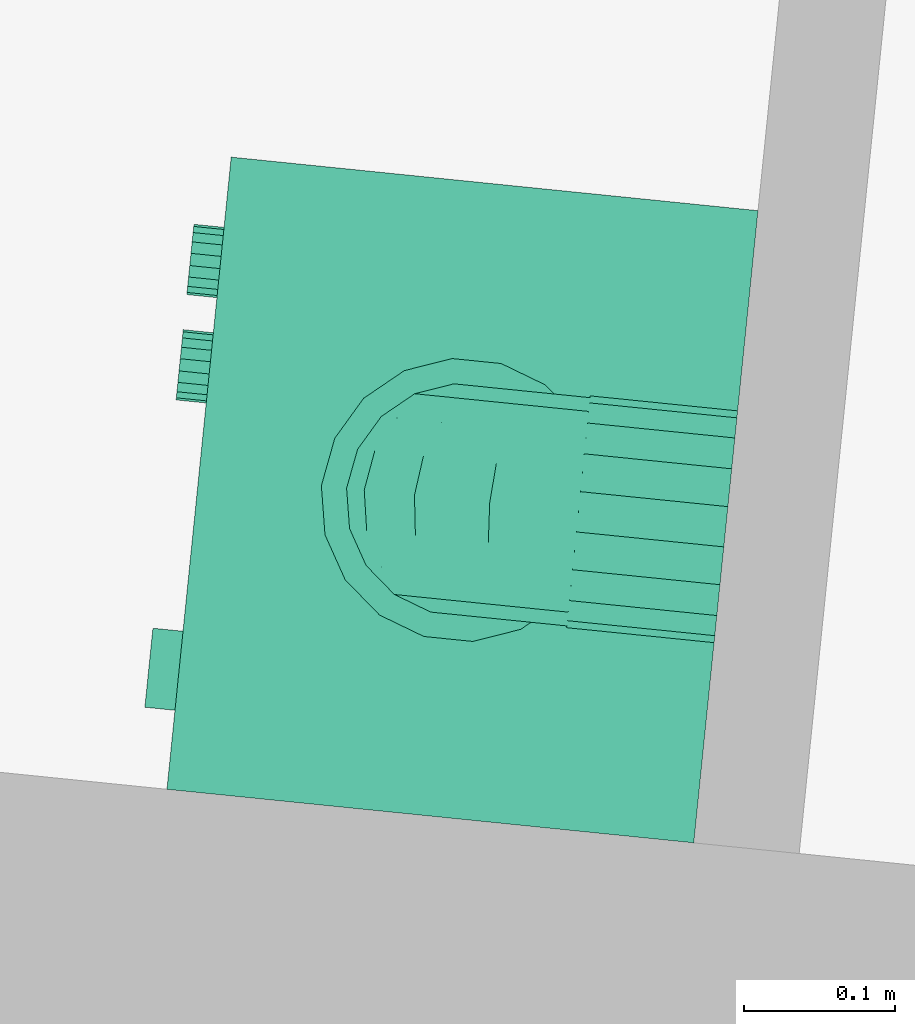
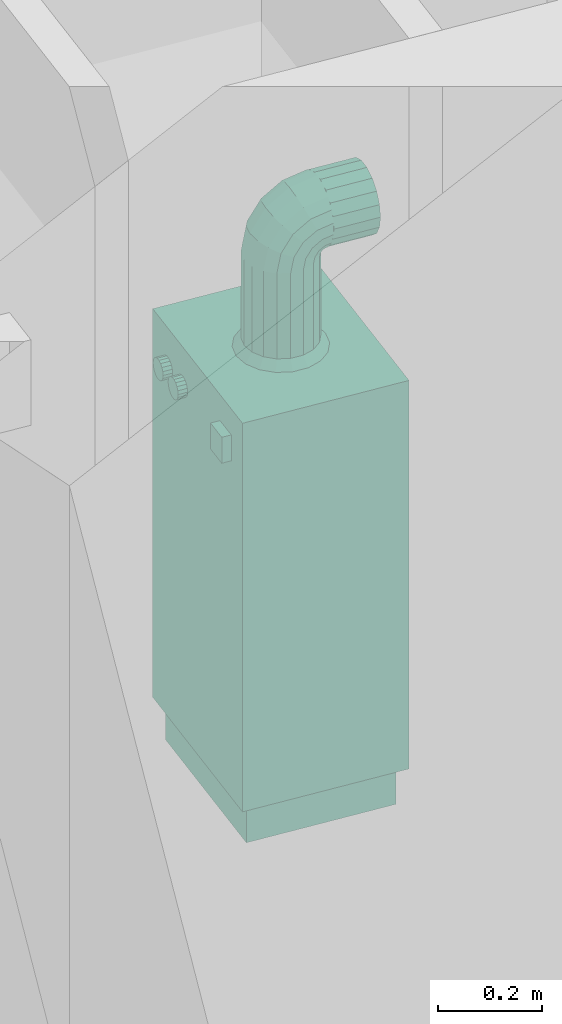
# One storey, part 115 of 164: 1 distribution element.
"""IFC2X3 building model written with IfcOpenShell, lengths in millimetres."""

import ifcopenshell
import ifcopenshell.guid

model = None  # the IFC model being written
_history = None  # IfcOwnerHistory: only IFC2X3 demands one
_inside = {}  # id of a spatial element -> (the spatial element, [elements in it])
_under = {}  # id of a project, library or spatial element -> (it, [spatial elements below it])
_declared = {}  # id of a project -> (the project, [libraries it declares])
_typed = {}  # id of a type object -> (the type object, [elements of that type])
_made_of = {}  # id of a material, layer set ... -> (it, [elements and type objects made of it])


def new_model(schema):
    """Start an empty IFC model of exactly this schema.

    Asked for "IFC4X3", IfcOpenShell would pick the latest addendum, in which some entities
    have other attributes; the version numbers below select the first issue.
    IFC2X3 requires an IfcOwnerHistory on every rooted entity: one is made here for all.
    """
    global model, _history
    if schema == "IFC4X3":
        model = ifcopenshell.file(schema_version=(4, 3, 0, 0))
    else:
        model = ifcopenshell.file(schema=schema)
    _inside.clear()
    _under.clear()
    _declared.clear()
    _typed.clear()
    _made_of.clear()
    _history = None
    if model.schema == "IFC2X3":
        org = make("IfcOrganization", Name="unknown")
        user = make(
            "IfcPersonAndOrganization",
            ThePerson=make("IfcPerson", FamilyName="unknown"),
            TheOrganization=org,
        )
        app = make(
            "IfcApplication",
            ApplicationDeveloper=org,
            Version="unknown",
            ApplicationFullName="unknown",
            ApplicationIdentifier="unknown",
        )
        _history = make(
            "IfcOwnerHistory",
            OwningUser=user,
            OwningApplication=app,
            ChangeAction="ADDED",
            CreationDate=0,
        )
    return model


def make(cls, **values):
    """One entity of the class cls with the attributes given. An attribute that is None is left unset."""
    return model.create_entity(
        cls, **{name: value for name, value in values.items() if value is not None}
    )


def entity(cls, *values):
    """Any entity or typed value of the class cls, its attributes in the order of the schema. None: left unset."""
    e = model.create_entity(cls)
    for i, value in enumerate(values):
        if value is not None:
            e[i] = value
    return e


def rooted(cls, **values):
    """An entity with a GlobalId (a new one), such as an element, a storey or a relation."""
    return make(cls, GlobalId=ifcopenshell.guid.new(), OwnerHistory=_history, **values)


def si_unit(unit_type, name, prefix=None):
    """IfcSIUnit, for example si_unit("LENGTHUNIT", "METRE", prefix="MILLI")."""
    return make("IfcSIUnit", UnitType=unit_type, Prefix=prefix, Name=name)


def converted_unit(unit_type, name, factor, base, dimensions=None, offset=None):
    """IfcConversionBasedUnit, such as the inch: factor (a typed value) times the base unit."""
    return make(
        "IfcConversionBasedUnit"
        if offset is None
        else "IfcConversionBasedUnitWithOffset",
        ConversionOffset=offset,
        Dimensions=None
        if dimensions is None
        else entity("IfcDimensionalExponents", *dimensions),
        UnitType=unit_type,
        Name=name,
        ConversionFactor=make(
            "IfcMeasureWithUnit", ValueComponent=factor, UnitComponent=base
        ),
    )


def derived_unit(unit_type, elements):
    """IfcDerivedUnit: a product of units, each with its exponent."""
    return make(
        "IfcDerivedUnit",
        Elements=[
            make("IfcDerivedUnitElement", Unit=unit, Exponent=power)
            for unit, power in elements
        ],
        UnitType=unit_type,
    )


def money_unit(currency):
    """IfcMonetaryUnit."""
    return make("IfcMonetaryUnit", Currency=currency)


def assignment(units):
    """IfcUnitAssignment: the units of a project."""
    return None if units is None else make("IfcUnitAssignment", Units=units)


def point(xyz):
    """IfcCartesianPoint."""
    return None if xyz is None else make("IfcCartesianPoint", Coordinates=xyz)


def direction(xyz):
    """IfcDirection."""
    return None if xyz is None else make("IfcDirection", DirectionRatios=xyz)


def frame(location, z_axis=None, x_axis=None):
    """IfcAxis2Placement3D, a coordinate frame: its origin and axes. An axis left out is left unset."""
    return make(
        "IfcAxis2Placement3D",
        Location=point(location),
        Axis=direction(z_axis),
        RefDirection=direction(x_axis),
    )


def origin_with_axes():
    """The frame at (0, 0, 0) with the z axis (0, 0, 1) and the x axis (1, 0, 0) written out."""
    return frame((0.0, 0.0, 0.0), z_axis=(0.0, 0.0, 1.0), x_axis=(1.0, 0.0, 0.0))


def place(relative_to, where):
    """IfcLocalPlacement: puts the frame where relative to a parent placement (None: the world)."""
    return make(
        "IfcLocalPlacement", PlacementRelTo=relative_to, RelativePlacement=where
    )


def context(
    kind, dimensions, precision=None, world=None, true_north=None, identifier=None
):
    """IfcGeometricRepresentationContext, for example the 3D "Model" context."""
    return make(
        "IfcGeometricRepresentationContext",
        ContextIdentifier=identifier,
        ContextType=kind,
        CoordinateSpaceDimension=dimensions,
        Precision=precision,
        WorldCoordinateSystem=world,
        TrueNorth=true_north,
    )


def subcontext(parent, identifier, kind, view, scale=None):
    """IfcGeometricRepresentationSubContext, for example "Body" below "Model"."""
    return make(
        "IfcGeometricRepresentationSubContext",
        ContextIdentifier=identifier,
        ContextType=kind,
        ParentContext=parent,
        TargetScale=scale,
        TargetView=view,
    )


def project(units=None, contexts=None):
    """IfcProject with its units and contexts."""
    return rooted(
        "IfcProject",
        Name="project",
        RepresentationContexts=contexts,
        UnitsInContext=assignment(units),
    )


def spatial(cls, under=None, at=None, **own):
    """A site, building, storey or space (cls), placed at a placement, below another one or the project."""
    s = rooted(cls, ObjectPlacement=at, **own)
    if under is not None:
        _under.setdefault(under.id(), (under, []))[1].append(s)
    return s


def faces_of(points, faces, orient=None, outer=None):
    """IfcFace entities. A face is a list of loops; a loop is a list of indices into points, from 0.

    orient and outer hold one flag for each loop. By default every Orientation is true, the
    first loop of a face is its IfcFaceOuterBound and the others are IfcFaceBound.
    """
    made = []
    for i, loops in enumerate(faces):
        bounds = []
        for j, loop in enumerate(loops):
            is_outer = j == 0 if outer is None else outer[i][j]
            bounds.append(
                make(
                    "IfcFaceOuterBound" if is_outer else "IfcFaceBound",
                    Bound=make("IfcPolyLoop", Polygon=[points[k] for k in loop]),
                    Orientation=True if orient is None else orient[i][j],
                )
            )
        made.append(make("IfcFace", Bounds=bounds))
    return made


def open_shell(faces, orient=None, outer=None):
    """The faces of one IfcOpenShell. surface_model builds it on its shared points."""
    return ("IfcOpenShell", faces, orient, outer)


def faceted_brep(points, faces, orient=None, outer=None, voids=None):
    """IfcFacetedBrep: a solid bounded by flat faces; with voids (closed shells), ...WithVoids."""
    shared = [point(p) for p in points]
    hull = make("IfcClosedShell", CfsFaces=faces_of(shared, faces, orient, outer))
    if voids is None:
        return make("IfcFacetedBrep", Outer=hull)
    return make(
        "IfcFacetedBrepWithVoids",
        Outer=hull,
        Voids=[
            make(cls, CfsFaces=faces_of(shared, fs, o, b)) for cls, fs, o, b in voids
        ],
    )


def surface_model(cls, points, shells):
    """IfcFaceBasedSurfaceModel or IfcShellBasedSurfaceModel (cls): surfaces that need not close."""
    shared = [point(p) for p in points]
    made = [make(c, CfsFaces=faces_of(shared, fs, o, b)) for c, fs, o, b in shells]
    if cls == "IfcFaceBasedSurfaceModel":
        return make(cls, FbsmFaces=made)
    return make(cls, SbsmBoundary=made)


def shape(context_of_items, identifier, shape_type, items):
    """IfcShapeRepresentation: the items that make up one representation, for example the "Body"."""
    return make(
        "IfcShapeRepresentation",
        ContextOfItems=context_of_items,
        RepresentationIdentifier=identifier,
        RepresentationType=shape_type,
        Items=items,
    )


def source(mapping_origin, context_of_items, identifier, shape_type, items):
    """IfcRepresentationMap: a shape defined once, which mapped items show again and again."""
    return make(
        "IfcRepresentationMap",
        MappingOrigin=mapping_origin,
        MappedRepresentation=shape(context_of_items, identifier, shape_type, items),
    )


def transform(
    local_origin,
    x_axis=None,
    y_axis=None,
    z_axis=None,
    scale=None,
    scale2=None,
    scale3=None,
    uniform=True,
):
    """IfcCartesianTransformationOperator3D, or its non-uniform kind. x_axis, y_axis, z_axis: its Axis1, 2, 3."""
    if uniform:
        return make(
            "IfcCartesianTransformationOperator3D",
            Axis1=direction(x_axis),
            Axis2=direction(y_axis),
            LocalOrigin=point(local_origin),
            Scale=scale,
            Axis3=direction(z_axis),
        )
    return make(
        "IfcCartesianTransformationOperator3DnonUniform",
        Axis1=direction(x_axis),
        Axis2=direction(y_axis),
        LocalOrigin=point(local_origin),
        Scale=scale,
        Axis3=direction(z_axis),
        Scale2=scale2,
        Scale3=scale3,
    )


def mapped(mapping_source, mapping_target):
    """IfcMappedItem: shows the shape of a source again, moved by a transform."""
    return make(
        "IfcMappedItem", MappingSource=mapping_source, MappingTarget=mapping_target
    )


def made_of(thing, what):
    """Note that an element or type object is made of a material, layer set ...; save() writes the relation."""
    if what is not None:
        _made_of.setdefault(what.id(), (what, []))[1].append(thing)
    return thing


def type_object(cls, material=None, **own):
    """A type object (cls), such as IfcWallType, which elements share."""
    return made_of(rooted(cls, **own), material)


def element(
    cls,
    number,
    at=None,
    inside=None,
    cuts=None,
    type_object=None,
    material=None,
    context=None,
    identifier="Body",
    shape_type=None,
    held_by="IfcProductDefinitionShape",
    body=None,
    shapes=None,
    **own,
):
    """One element of the class cls, such as IfcWall. Its Tag is "e" and its number.

    at: its placement. inside: the storey or other place that contains it. cuts: it is an
    opening in that element (IfcRelVoidsElement). A single representation is given by context,
    identifier, shape_type and body (its items); several are given by shapes. held_by: the class
    of the entity that holds the representations. save() writes the other relations.
    """
    e = rooted(cls, Tag="e%d" % number, ObjectPlacement=at, **own)
    if body is not None:
        shapes = [shape(context, identifier, shape_type, body)]
    if shapes is not None:
        e.Representation = make(held_by, Representations=shapes)
    if inside is not None:
        _inside.setdefault(inside.id(), (inside, []))[1].append(e)
    if cuts is not None:
        rooted(
            "IfcRelVoidsElement", RelatingBuildingElement=cuts, RelatedOpeningElement=e
        )
    if type_object is not None:
        _typed.setdefault(type_object.id(), (type_object, []))[1].append(e)
    return made_of(e, material)


def aggregate(whole, parts):
    """IfcRelAggregates: a whole, such as a stair, and the parts it consists of."""
    return rooted("IfcRelAggregates", RelatingObject=whole, RelatedObjects=parts)


def save(model, path):
    """Write the relations noted so far, then the file.

    IfcRelAggregates (storeys below a building ...), IfcRelContainedInSpatialStructure (elements
    in a storey), IfcRelDefinesByType, IfcRelAssociatesMaterial and IfcRelDeclares: one each for
    every whole, place, type object, material and project.
    """
    for whole, parts in _under.values():
        aggregate(whole, parts)
    for where, things in _inside.values():
        rooted(
            "IfcRelContainedInSpatialStructure",
            RelatedElements=things,
            RelatingStructure=where,
        )
    for kind, things in _typed.values():
        rooted("IfcRelDefinesByType", RelatedObjects=things, RelatingType=kind)
    for what, things in _made_of.values():
        rooted("IfcRelAssociatesMaterial", RelatedObjects=things, RelatingMaterial=what)
    for by, libraries in _declared.values():
        rooted("IfcRelDeclares", RelatingContext=by, RelatedDefinitions=libraries)
    model.write(path)


model = new_model("IFC2X3")

# Units and contexts
model_context = context("Model", 3, precision=0.01, world=origin_with_axes(), true_north=direction((0.0, 1.0)))
body_context = subcontext(model_context, "Body", "Model", "MODEL_VIEW")
ifc_project = project(units=[si_unit("LENGTHUNIT", "METRE", prefix="MILLI"), si_unit("AREAUNIT", "SQUARE_METRE"), si_unit("VOLUMEUNIT", "CUBIC_METRE"), converted_unit("PLANEANGLEUNIT", "DEGREE", entity("IfcPlaneAngleMeasure", 0.0174532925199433), si_unit("PLANEANGLEUNIT", "RADIAN"), dimensions=[0, 0, 0, 0, 0, 0, 0]), money_unit("USD"), converted_unit("TIMEUNIT", "Year", entity("IfcTimeMeasure", 31557600.0), si_unit("TIMEUNIT", "SECOND"), dimensions=[0, 0, 1, 0, 0, 0, 0]), si_unit("MASSUNIT", "GRAM", prefix="KILO"), si_unit("THERMODYNAMICTEMPERATUREUNIT", "DEGREE_CELSIUS"), si_unit("LUMINOUSINTENSITYUNIT", "LUMEN"), si_unit("ENERGYUNIT", "JOULE", prefix="MEGA"), derived_unit("THERMALCONDUCTANCEUNIT", [(si_unit("POWERUNIT", "WATT"), 1), (si_unit("LENGTHUNIT", "METRE"), -1), (si_unit("THERMODYNAMICTEMPERATUREUNIT", "KELVIN"), -1)]), derived_unit("SPECIFICHEATCAPACITYUNIT", [(si_unit("ENERGYUNIT", "JOULE"), 1), (si_unit("MASSUNIT", "GRAM", prefix="KILO"), -1), (si_unit("THERMODYNAMICTEMPERATUREUNIT", "KELVIN"), -1)]), derived_unit("MASSDENSITYUNIT", [(si_unit("MASSUNIT", "GRAM", prefix="KILO"), 1), (si_unit("VOLUMEUNIT", "CUBIC_METRE"), -1)])], contexts=[model_context])

# Site, building, storey
site_placement = place(None, origin_with_axes())
site = spatial("IfcSite", under=ifc_project, at=site_placement, Name="Site", CompositionType="ELEMENT")
building_placement = place(site_placement, origin_with_axes())
building = spatial("IfcBuilding", under=site, at=building_placement, Name="Bâtiment", CompositionType="ELEMENT")
storey_placement = place(building_placement, frame((0.0, 0.0, 5750.0), z_axis=(0.0, 0.0, 1.0), x_axis=(1.0, 0.0, 0.0)))
storey = spatial("IfcBuildingStorey", under=building, at=storey_placement, Name="Etage1", CompositionType="ELEMENT", Elevation=5750.0)

# Distribution element
distribution_element_type = type_object("IfcDistributionElementType", Name="Chaudière à gaz 27")
shared_shape = source(origin_with_axes(), body_context, "Body", "SurfaceModel", [
    surface_model("IfcShellBasedSurfaceModel", [(-200.0, 350.0, 34.90909090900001), (-200.0, 368.0, 34.90909090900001), (-180.0709335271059, 368.0, 37.53280228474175), (-180.0709335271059, 350.0, 37.53280228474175), (-219.9290664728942, 350.0, 37.53280228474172), (-219.9290664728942, 368.0, 37.53280228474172), (-161.5, 368.0, 45.22513481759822), (-161.5, 350.0, 45.22513481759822), (-238.5000000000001, 350.0, 45.22513481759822), (-238.5000000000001, 368.0, 45.22513481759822), (-145.5527778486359, 368.0, 57.46186875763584), (-145.5527778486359, 350.0, 57.46186875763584), (-254.4472221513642, 350.0, 57.46186875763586), (-254.4472221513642, 368.0, 57.46186875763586), (-133.3160439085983, 368.0, 73.409090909), (-133.3160439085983, 350.0, 73.409090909), (-266.6839560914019, 350.0, 73.40909090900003), (-266.6839560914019, 368.0, 73.40909090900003), (-125.6237113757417, 368.0, 91.9800244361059), (-125.6237113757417, 350.0, 91.9800244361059), (-274.3762886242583, 350.0, 91.98002443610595), (-274.3762886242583, 368.0, 91.98002443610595), (-123.0, 368.0, 111.909090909), (-123.0, 350.0, 111.909090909), (-277.0, 350.0, 111.909090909), (-277.0, 368.0, 111.909090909), (-125.6237113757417, 368.0, 131.8381573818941), (-125.6237113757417, 350.0, 131.8381573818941), (-274.3762886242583, 350.0, 131.8381573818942), (-274.3762886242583, 368.0, 131.8381573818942), (-133.3160439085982, 368.0, 150.409090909), (-133.3160439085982, 350.0, 150.409090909), (-266.6839560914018, 350.0, 150.4090909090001), (-266.6839560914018, 368.0, 150.4090909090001), (-145.5527778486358, 368.0, 166.3563130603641), (-145.5527778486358, 350.0, 166.3563130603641), (-254.4472221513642, 350.0, 166.3563130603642), (-254.4472221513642, 368.0, 166.3563130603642), (-161.5, 368.0, 178.5930470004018), (-161.5, 350.0, 178.5930470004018), (-238.5, 350.0, 178.5930470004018), (-238.5, 368.0, 178.5930470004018), (-180.0709335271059, 368.0, 186.2853795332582), (-180.0709335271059, 350.0, 186.2853795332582), (-219.929066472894, 350.0, 186.2853795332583), (-219.929066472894, 368.0, 186.2853795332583), (-200.0, 368.0, 188.909090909), (-200.0, 350.0, 188.909090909)], [open_shell([[[0, 1, 2, 3]], [[4, 5, 1, 0]], [[3, 2, 6, 7]], [[8, 9, 5, 4]], [[7, 6, 10, 11]], [[12, 13, 9, 8]], [[11, 10, 14, 15]], [[16, 17, 13, 12]], [[15, 14, 18, 19]], [[20, 21, 17, 16]], [[19, 18, 22, 23]], [[24, 25, 21, 20]], [[23, 22, 26, 27]], [[28, 29, 25, 24]], [[27, 26, 30, 31]], [[32, 33, 29, 28]], [[31, 30, 34, 35]], [[36, 37, 33, 32]], [[35, 34, 38, 39]], [[40, 41, 37, 36]], [[39, 38, 42, 43]], [[44, 45, 41, 40]], [[43, 42, 46, 47]], [[47, 46, 45, 44]]])]),
    faceted_brep([(-200.0, 368.0, 14.909090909), (-200.0, 370.0, 14.909090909), (-174.8945526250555, 370.0, 18.21428575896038), (-174.8945526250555, 368.0, 18.21428575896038), (-225.1054473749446, 368.0, 18.21428575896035), (-225.1054473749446, 370.0, 18.21428575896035), (-248.5000000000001, 370.0, 27.90462674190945), (-268.5893577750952, 370.0, 43.31973313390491), (-284.0044641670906, 370.0, 63.40909090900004), (-293.6948051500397, 370.0, 86.80364353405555), (-297.0000000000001, 370.0, 111.909090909), (-293.6948051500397, 370.0, 137.0145382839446), (-284.0044641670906, 370.0, 160.4090909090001), (-268.5893577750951, 370.0, 180.4984486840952), (-248.5, 370.0, 195.9135550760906), (-225.1054473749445, 370.0, 205.6038960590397), (-199.9999999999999, 370.0, 208.909090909), (-174.8945526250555, 370.0, 205.6038960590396), (-151.5, 370.0, 195.9135550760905), (-131.4106422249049, 370.0, 180.4984486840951), (-115.9955358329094, 370.0, 160.409090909), (-106.3051948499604, 370.0, 137.0145382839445), (-103.0, 370.0, 111.909090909), (-106.3051948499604, 370.0, 86.80364353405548), (-115.9955358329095, 370.0, 63.40909090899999), (-131.4106422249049, 370.0, 43.31973313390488), (-151.5, 370.0, 27.90462674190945), (-200.0, 370.0, 34.90909090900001), (-180.0709335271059, 370.0, 37.53280228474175), (-161.5, 370.0, 45.22513481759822), (-145.5527778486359, 370.0, 57.46186875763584), (-133.3160439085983, 370.0, 73.409090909), (-125.6237113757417, 370.0, 91.9800244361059), (-123.0, 370.0, 111.909090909), (-125.6237113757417, 370.0, 131.8381573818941), (-133.3160439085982, 370.0, 150.409090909), (-145.5527778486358, 370.0, 166.3563130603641), (-161.5, 370.0, 178.5930470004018), (-180.0709335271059, 370.0, 186.2853795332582), (-200.0, 370.0, 188.909090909), (-219.929066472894, 370.0, 186.2853795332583), (-238.5, 370.0, 178.5930470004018), (-254.4472221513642, 370.0, 166.3563130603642), (-266.6839560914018, 370.0, 150.4090909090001), (-274.3762886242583, 370.0, 131.8381573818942), (-277.0, 370.0, 111.909090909), (-274.3762886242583, 370.0, 91.98002443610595), (-266.6839560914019, 370.0, 73.40909090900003), (-254.4472221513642, 370.0, 57.46186875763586), (-238.5000000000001, 370.0, 45.22513481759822), (-219.9290664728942, 370.0, 37.53280228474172), (-151.5, 368.0, 27.90462674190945), (-131.4106422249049, 368.0, 43.31973313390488), (-115.9955358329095, 368.0, 63.40909090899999), (-106.3051948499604, 368.0, 86.80364353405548), (-103.0, 368.0, 111.909090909), (-106.3051948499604, 368.0, 137.0145382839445), (-115.9955358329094, 368.0, 160.409090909), (-131.4106422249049, 368.0, 180.4984486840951), (-151.5, 368.0, 195.9135550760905), (-174.8945526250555, 368.0, 205.6038960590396), (-199.9999999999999, 368.0, 208.909090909), (-225.1054473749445, 368.0, 205.6038960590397), (-248.5, 368.0, 195.9135550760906), (-268.5893577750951, 368.0, 180.4984486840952), (-284.0044641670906, 368.0, 160.4090909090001), (-293.6948051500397, 368.0, 137.0145382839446), (-297.0000000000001, 368.0, 111.909090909), (-293.6948051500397, 368.0, 86.80364353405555), (-284.0044641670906, 368.0, 63.40909090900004), (-268.5893577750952, 368.0, 43.31973313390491), (-248.5000000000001, 368.0, 27.90462674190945), (-200.0, 368.0, 34.90909090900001), (-219.9290664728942, 368.0, 37.53280228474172), (-238.5000000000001, 368.0, 45.22513481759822), (-254.4472221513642, 368.0, 57.46186875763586), (-266.6839560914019, 368.0, 73.40909090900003), (-274.3762886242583, 368.0, 91.98002443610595), (-277.0, 368.0, 111.909090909), (-274.3762886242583, 368.0, 131.8381573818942), (-266.6839560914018, 368.0, 150.4090909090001), (-254.4472221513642, 368.0, 166.3563130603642), (-238.5, 368.0, 178.5930470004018), (-219.929066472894, 368.0, 186.2853795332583), (-200.0, 368.0, 188.909090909), (-180.0709335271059, 368.0, 186.2853795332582), (-161.5, 368.0, 178.5930470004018), (-145.5527778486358, 368.0, 166.3563130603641), (-133.3160439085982, 368.0, 150.409090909), (-125.6237113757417, 368.0, 131.8381573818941), (-123.0, 368.0, 111.909090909), (-125.6237113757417, 368.0, 91.9800244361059), (-133.3160439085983, 368.0, 73.409090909), (-145.5527778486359, 368.0, 57.46186875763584), (-161.5, 368.0, 45.22513481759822), (-180.0709335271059, 368.0, 37.53280228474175)], [[[0, 1, 2, 3]], [[4, 5, 1, 0]], [[1, 5, 6, 7, 8, 9, 10, 11, 12, 13, 14, 15, 16, 17, 18, 19, 20, 21, 22, 23, 24, 25, 26, 2], [27, 28, 29, 30, 31, 32, 33, 34, 35, 36, 37, 38, 39, 40, 41, 42, 43, 44, 45, 46, 47, 48, 49, 50]], [[3, 2, 26, 51]], [[0, 3, 51, 52, 53, 54, 55, 56, 57, 58, 59, 60, 61, 62, 63, 64, 65, 66, 67, 68, 69, 70, 71, 4], [72, 73, 74, 75, 76, 77, 78, 79, 80, 81, 82, 83, 84, 85, 86, 87, 88, 89, 90, 91, 92, 93, 94, 95]], [[71, 6, 5, 4]], [[70, 7, 6, 71]], [[69, 8, 7, 70]], [[68, 9, 8, 69]], [[67, 10, 9, 68]], [[66, 11, 10, 67]], [[65, 12, 11, 66]], [[64, 13, 12, 65]], [[63, 14, 13, 64]], [[62, 15, 14, 63]], [[61, 16, 15, 62]], [[60, 17, 16, 61]], [[59, 18, 17, 60]], [[58, 19, 18, 59]], [[57, 20, 19, 58]], [[56, 21, 20, 57]], [[55, 22, 21, 56]], [[54, 23, 22, 55]], [[53, 24, 23, 54]], [[52, 25, 24, 53]], [[51, 26, 25, 52]], [[95, 28, 27, 72]], [[94, 29, 28, 95]], [[93, 30, 29, 94]], [[92, 31, 30, 93]], [[91, 32, 31, 92]], [[90, 33, 32, 91]], [[89, 34, 33, 90]], [[88, 35, 34, 89]], [[87, 36, 35, 88]], [[86, 37, 36, 87]], [[85, 38, 37, 86]], [[84, 39, 38, 85]], [[83, 40, 39, 84]], [[82, 41, 40, 83]], [[81, 42, 41, 82]], [[80, 43, 42, 81]], [[79, 44, 43, 80]], [[78, 45, 44, 79]], [[77, 46, 45, 78]], [[76, 47, 46, 77]], [[75, 48, 47, 76]], [[74, 49, 48, 75]], [[73, 50, 49, 74]], [[72, 27, 50, 73]]]),
    faceted_brep([(-399.0, 17.5, 0.0), (-399.0, 332.5, 0.0), (-21.0, 332.5, 0.0), (-21.0, 17.5, 0.0), (-399.0, 17.5, 90.9090909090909), (-399.0, 332.5, 90.9090909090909), (-21.0, 332.5, 90.9090909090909), (-21.0, 17.5, 90.9090909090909)], [[[0, 1, 2, 3]], [[0, 4, 5, 1]], [[1, 5, 6, 2]], [[2, 6, 7, 3]], [[3, 7, 4, 0]], [[7, 6, 5, 4]]]),
    faceted_brep([(0.0, 350.0, 90.9090909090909), (-420.0, 350.0, 90.90909090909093), (-419.9999999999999, 350.0, 1000.0), (0.0, 350.0, 1000.0), (0.0, 0.0, 90.9090909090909), (-420.0, 0.0, 90.90909090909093), (-419.9999999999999, 0.0, 818.1818181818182), (-419.9999999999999, 17.5, 818.1818181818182), (-419.9999999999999, 17.5, 1000.0), (0.0, 17.5, 1000.0), (0.0, 17.5, 818.1818181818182), (0.0, 0.0, 818.1818181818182)], [[[0, 1, 2, 3]], [[4, 5, 1, 0]], [[1, 5, 6, 7, 8, 2]], [[3, 2, 8, 9]], [[0, 3, 9, 10, 11, 4]], [[11, 6, 5, 4]], [[10, 7, 6, 11]], [[9, 8, 7, 10]]]),
    faceted_brep([(-420.0, 0.0, 818.1818181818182), (-420.0, 17.5, 818.1818181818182), (0.0, 17.5, 818.1818181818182), (0.0, 0.0, 818.1818181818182), (-420.0, 0.0, 1000.0), (-420.0, 17.5, 1000.0), (0.0, 17.5, 1000.0), (0.0, 0.0, 1000.0)], [[[0, 1, 2, 3]], [[0, 4, 5, 1]], [[1, 5, 6, 2]], [[2, 6, 7, 3]], [[3, 7, 4, 0]], [[7, 6, 5, 4]]]),
    faceted_brep([(-301.9261611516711, 0.0, 901.1104390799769), (-303.3333333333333, 0.0, 909.0909090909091), (-301.9261611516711, 0.0, 917.0713791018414), (-297.8743703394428, 0.0, 924.0892866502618), (-291.6666666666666, 0.0, 929.2981685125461), (-284.0517908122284, 0.0, 932.0697566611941), (-275.9482091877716, 0.0, 932.0697566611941), (-268.3333333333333, 0.0, 929.2981685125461), (-262.1256296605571, 0.0, 924.0892866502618), (-258.0738388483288, 0.0, 917.0713791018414), (-256.6666666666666, 0.0, 909.0909090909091), (-258.0738388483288, 0.0, 901.1104390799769), (-262.1256296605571, 0.0, 894.0925315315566), (-268.3333333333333, 0.0, 888.8836496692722), (-275.9482091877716, 0.0, 886.1120615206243), (-284.0517908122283, 0.0, 886.1120615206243), (-291.6666666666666, 0.0, 888.8836496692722), (-297.8743703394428, 0.0, 894.0925315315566), (-301.9261611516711, -19.99999999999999, 901.1104390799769), (-303.3333333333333, -19.99999999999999, 909.0909090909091), (-301.9261611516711, -19.99999999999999, 917.0713791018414), (-297.8743703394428, -19.99999999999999, 924.0892866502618), (-291.6666666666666, -19.99999999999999, 929.2981685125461), (-284.0517908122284, -19.99999999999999, 932.0697566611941), (-275.9482091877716, -19.99999999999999, 932.0697566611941), (-268.3333333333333, -19.99999999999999, 929.2981685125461), (-262.1256296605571, -19.99999999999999, 924.0892866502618), (-258.0738388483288, -19.99999999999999, 917.0713791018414), (-256.6666666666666, -19.99999999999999, 909.0909090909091), (-258.0738388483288, -19.99999999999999, 901.1104390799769), (-262.1256296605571, -19.99999999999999, 894.0925315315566), (-268.3333333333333, -19.99999999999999, 888.8836496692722), (-275.9482091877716, -19.99999999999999, 886.1120615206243), (-284.0517908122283, -19.99999999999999, 886.1120615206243), (-291.6666666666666, -19.99999999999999, 888.8836496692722), (-297.8743703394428, -19.99999999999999, 894.0925315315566)], [[[0, 1, 2, 3, 4, 5, 6, 7, 8, 9, 10, 11, 12, 13, 14, 15, 16, 17]], [[0, 18, 19, 1]], [[1, 19, 20, 2]], [[2, 20, 21, 3]], [[3, 21, 22, 4]], [[4, 22, 23, 5]], [[5, 23, 24, 6]], [[6, 24, 25, 7]], [[7, 25, 26, 8]], [[8, 26, 27, 9]], [[9, 27, 28, 10]], [[10, 28, 29, 11]], [[11, 29, 30, 12]], [[12, 30, 31, 13]], [[13, 31, 32, 14]], [[14, 32, 33, 15]], [[15, 33, 34, 16]], [[16, 34, 35, 17]], [[17, 35, 18, 0]], [[18, 35, 34, 33, 32, 31, 30, 29, 28, 27, 26, 25, 24, 23, 22, 21, 20, 19]]]),
    faceted_brep([(-371.9261611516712, 0.0, 901.1104390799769), (-373.3333333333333, 0.0, 909.0909090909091), (-371.9261611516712, 0.0, 917.0713791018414), (-367.8743703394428, 0.0, 924.0892866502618), (-361.6666666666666, 0.0, 929.2981685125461), (-354.0517908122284, 0.0, 932.0697566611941), (-345.9482091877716, 0.0, 932.0697566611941), (-338.3333333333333, 0.0, 929.2981685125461), (-332.1256296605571, 0.0, 924.0892866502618), (-328.0738388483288, 0.0, 917.0713791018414), (-326.6666666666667, 0.0, 909.0909090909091), (-328.0738388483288, 0.0, 901.1104390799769), (-332.1256296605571, 0.0, 894.0925315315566), (-338.3333333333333, 0.0, 888.8836496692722), (-345.9482091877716, 0.0, 886.1120615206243), (-354.0517908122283, 0.0, 886.1120615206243), (-361.6666666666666, 0.0, 888.8836496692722), (-367.8743703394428, 0.0, 894.0925315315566), (-371.9261611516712, -19.99999999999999, 901.1104390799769), (-373.3333333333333, -19.99999999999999, 909.0909090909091), (-371.9261611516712, -19.99999999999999, 917.0713791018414), (-367.8743703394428, -19.99999999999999, 924.0892866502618), (-361.6666666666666, -19.99999999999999, 929.2981685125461), (-354.0517908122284, -19.99999999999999, 932.0697566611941), (-345.9482091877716, -19.99999999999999, 932.0697566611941), (-338.3333333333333, -19.99999999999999, 929.2981685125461), (-332.1256296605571, -19.99999999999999, 924.0892866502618), (-328.0738388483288, -19.99999999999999, 917.0713791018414), (-326.6666666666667, -19.99999999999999, 909.0909090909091), (-328.0738388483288, -19.99999999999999, 901.1104390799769), (-332.1256296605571, -19.99999999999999, 894.0925315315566), (-338.3333333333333, -19.99999999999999, 888.8836496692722), (-345.9482091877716, -19.99999999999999, 886.1120615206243), (-354.0517908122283, -19.99999999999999, 886.1120615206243), (-361.6666666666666, -19.99999999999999, 888.8836496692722), (-367.8743703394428, -19.99999999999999, 894.0925315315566)], [[[0, 1, 2, 3, 4, 5, 6, 7, 8, 9, 10, 11, 12, 13, 14, 15, 16, 17]], [[0, 18, 19, 1]], [[1, 19, 20, 2]], [[2, 20, 21, 3]], [[3, 21, 22, 4]], [[4, 22, 23, 5]], [[5, 23, 24, 6]], [[6, 24, 25, 7]], [[7, 25, 26, 8]], [[8, 26, 27, 9]], [[9, 27, 28, 10]], [[10, 28, 29, 11]], [[11, 29, 30, 12]], [[12, 30, 31, 13]], [[13, 31, 32, 14]], [[14, 32, 33, 15]], [[15, 33, 34, 16]], [[16, 34, 35, 17]], [[17, 35, 18, 0]], [[18, 35, 34, 33, 32, 31, 30, 29, 28, 27, 26, 25, 24, 23, 22, 21, 20, 19]]]),
    faceted_brep([(-105.0, 0.0, 878.7878787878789), (-105.0, 0.0, 939.3939393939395), (-52.5, 0.0, 939.3939393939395), (-52.5, 0.0, 878.7878787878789), (-105.0, -20.0, 878.7878787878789), (-105.0, -19.99999999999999, 939.3939393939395), (-52.5, -19.99999999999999, 939.3939393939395), (-52.5, -20.0, 878.7878787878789)], [[[0, 1, 2, 3]], [[0, 4, 5, 1]], [[1, 5, 6, 2]], [[2, 6, 7, 3]], [[3, 7, 4, 0]], [[7, 6, 5, 4]]]),
    surface_model("IfcShellBasedSurfaceModel", [(-183.6644489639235, 247.3563318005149, 1220.0), (-183.6644489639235, 247.3563318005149, 1020.0), (-210.0, 252.0, 1020.0), (-210.0, 252.0, 1220.0), (-160.5053540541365, 233.9854221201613, 1220.0), (-160.5053540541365, 233.9854221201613, 1020.0), (-177.9356115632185, 263.0961831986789, 1000.0), (-210.0, 268.75, 1000.0), (-236.3355510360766, 247.356331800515, 1020.0), (-236.3355510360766, 247.356331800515, 1220.0), (-143.3160439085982, 213.5, 1220.0), (-143.3160439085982, 213.5, 1020.0), (-149.7386615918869, 246.8166665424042, 1000.0), (-242.0643884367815, 263.0961831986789, 1000.0), (-259.4946459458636, 233.9854221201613, 1020.0), (-259.4946459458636, 233.9854221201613, 1220.0), (-134.16980301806, 188.3709096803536, 1220.0), (-134.16980301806, 188.3709096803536, 1020.0), (-128.8101183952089, 221.875, 1000.0), (-270.2613384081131, 246.8166665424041, 1000.0), (-276.6839560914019, 213.5, 1020.0), (-276.6839560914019, 213.5, 1220.0), (-134.16980301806, 161.6290903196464, 1220.0), (-134.16980301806, 161.6290903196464, 1020.0), (-117.6742731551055, 191.2795166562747, 1000.0), (-291.1898816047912, 221.8749999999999, 1000.0), (-285.83019698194, 188.3709096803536, 1020.0), (-285.83019698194, 188.3709096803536, 1220.0), (-143.3160439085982, 136.5, 1220.0), (-143.3160439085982, 136.5, 1020.0), (-117.6742731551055, 158.7204833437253, 1000.0), (-302.3257268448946, 191.2795166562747, 1000.0), (-285.83019698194, 161.6290903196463, 1020.0), (-285.83019698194, 161.6290903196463, 1220.0), (-160.5053540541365, 116.0145778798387, 1220.0), (-160.5053540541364, 116.0145778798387, 1020.0), (-128.8101183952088, 128.125, 1000.0), (-302.3257268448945, 158.7204833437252, 1000.0), (-276.6839560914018, 136.4999999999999, 1020.0), (-276.6839560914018, 136.4999999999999, 1220.0), (-183.6644489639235, 102.643668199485, 1220.0), (-183.6644489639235, 102.643668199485, 1020.0), (-149.7386615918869, 103.1833334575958, 1000.0), (-291.1898816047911, 128.1249999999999, 1000.0), (-259.4946459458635, 116.0145778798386, 1020.0), (-259.4946459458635, 116.0145778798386, 1220.0), (-210.0, 97.99999999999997, 1220.0), (-210.0, 97.99999999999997, 1020.0), (-177.9356115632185, 86.90381680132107, 1000.0), (-270.261338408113, 103.1833334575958, 1000.0), (-236.3355510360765, 102.643668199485, 1020.0), (-236.3355510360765, 102.643668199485, 1220.0), (-210.0, 81.24999999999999, 1000.0), (-242.0643884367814, 86.90381680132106, 1000.0)], [open_shell([[[0, 1, 2, 3]], [[4, 5, 1, 0]], [[1, 6, 7, 2]], [[3, 2, 8, 9]], [[10, 11, 5, 4]], [[5, 12, 6, 1]], [[2, 7, 13, 8]], [[9, 8, 14, 15]], [[16, 17, 11, 10]], [[11, 18, 12, 5]], [[8, 13, 19, 14]], [[15, 14, 20, 21]], [[22, 23, 17, 16]], [[17, 24, 18, 11]], [[14, 19, 25, 20]], [[21, 20, 26, 27]], [[28, 29, 23, 22]], [[23, 30, 24, 17]], [[20, 25, 31, 26]], [[27, 26, 32, 33]], [[34, 35, 29, 28]], [[29, 36, 30, 23]], [[26, 31, 37, 32]], [[33, 32, 38, 39]], [[40, 41, 35, 34]], [[35, 42, 36, 29]], [[32, 37, 43, 38]], [[39, 38, 44, 45]], [[46, 47, 41, 40]], [[41, 48, 42, 35]], [[38, 43, 49, 44]], [[45, 44, 50, 51]], [[51, 50, 47, 46]], [[47, 52, 48, 41]], [[44, 49, 53, 50]], [[50, 53, 52, 47]]])]),
    faceted_brep([(-285.83019698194, 161.6290903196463, 1220.0), (-285.83019698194, 168.5081662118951, 1254.583449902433), (-285.83019698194, 193.2143857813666, 1244.349798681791), (-285.83019698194, 188.3709096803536, 1220.0), (-276.6839560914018, 136.4999999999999, 1220.0), (-276.6839560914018, 145.2919139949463, 1264.199936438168), (-285.83019698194, 188.0981169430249, 1283.901883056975), (-285.83019698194, 207.0074387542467, 1264.992561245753), (-276.6839560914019, 213.4999999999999, 1220.0), (-276.6839560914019, 216.4306379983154, 1234.733312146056), (-259.4946459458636, 233.9854221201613, 1220.0), (-236.3355510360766, 247.356331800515, 1220.0), (-210.0, 252.0, 1220.0), (-183.6644489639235, 247.3563318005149, 1220.0), (-160.5053540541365, 233.9854221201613, 1220.0), (-143.3160439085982, 213.5, 1220.0), (-134.16980301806, 188.3709096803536, 1220.0), (-134.16980301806, 161.6290903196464, 1220.0), (-143.3160439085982, 136.5, 1220.0), (-160.5053540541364, 116.0145778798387, 1220.0), (-183.6644489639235, 102.643668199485, 1220.0), (-210.0, 97.99999999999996, 1220.0), (-236.3355510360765, 102.643668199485, 1220.0), (-259.4946459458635, 116.0145778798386, 1220.0), (-259.4946459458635, 126.3658517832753, 1272.039368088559), (-276.6839560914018, 170.3291667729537, 1301.670833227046), (-285.83019698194, 217.4165500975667, 1303.491833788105), (-285.83019698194, 227.6502013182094, 1278.785614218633), (-276.6839560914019, 224.7763889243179, 1247.223611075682), (-259.4946459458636, 235.3567002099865, 1226.893880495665), (-236.3355510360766, 247.7098099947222, 1221.777054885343), (-183.6644489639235, 247.7098099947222, 1221.777054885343), (-160.5053540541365, 235.3567002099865, 1226.893880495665), (-143.3160439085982, 216.4306379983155, 1234.733312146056), (-134.16980301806, 193.2143857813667, 1244.349798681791), (-134.16980301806, 168.5081662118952, 1254.583449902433), (-143.3160439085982, 145.2919139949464, 1264.199936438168), (-160.5053540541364, 126.3658517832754, 1272.039368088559), (-183.6644489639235, 114.0127419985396, 1277.15619369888), (-210.0, 109.7225519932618, 1278.933248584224), (-236.3355510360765, 114.0127419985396, 1277.15619369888), (-259.4946459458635, 155.8437858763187, 1316.156214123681), (-276.6839560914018, 207.8000635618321, 1326.708086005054), (-285.83019698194, 252.0, 1310.370909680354), (-285.83019698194, 252.0, 1283.629090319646), (-276.6839560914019, 237.266687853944, 1255.569362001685), (-259.4946459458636, 239.2617698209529, 1232.738230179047), (-236.3355510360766, 248.7164307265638, 1223.283569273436), (-183.6644489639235, 248.7164307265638, 1223.283569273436), (-160.5053540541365, 239.2617698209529, 1232.738230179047), (-143.3160439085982, 224.7763889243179, 1247.223611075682), (-134.16980301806, 207.0074387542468, 1264.992561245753), (-134.16980301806, 188.0981169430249, 1283.901883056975), (-143.3160439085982, 170.3291667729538, 1301.670833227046), (-160.5053540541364, 155.8437858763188, 1316.156214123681), (-183.6644489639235, 146.3891249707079, 1325.610875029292), (-210.0, 143.1055556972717, 1328.894444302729), (-236.3355510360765, 146.3891249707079, 1325.610875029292), (-259.4946459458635, 199.9606319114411, 1345.634148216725), (-276.6839560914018, 252.0, 1335.5), (-276.6839560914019, 252.0, 1258.5), (-259.4946459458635, 252.0, 1355.985422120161), (-236.3355510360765, 252.0, 1369.356331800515), (-210.0, 252.0, 1374.0), (-183.6644489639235, 252.0, 1369.356331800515), (-160.5053540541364, 252.0, 1355.985422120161), (-143.3160439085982, 252.0, 1335.5), (-134.16980301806, 252.0, 1310.370909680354), (-134.16980301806, 252.0, 1283.629090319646), (-143.3160439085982, 252.0, 1258.5), (-160.5053540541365, 252.0, 1238.014577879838), (-183.6644489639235, 252.0, 1224.643668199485), (-236.3355510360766, 252.0, 1224.643668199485), (-259.4946459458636, 252.0, 1238.014577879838), (-259.4946459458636, 245.1061195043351, 1236.643299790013), (-236.3355510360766, 250.2229451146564, 1224.290190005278), (-183.6644489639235, 250.2229451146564, 1224.290190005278), (-160.5053540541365, 245.1061195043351, 1236.643299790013), (-143.3160439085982, 237.2666878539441, 1255.569362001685), (-134.16980301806, 227.6502013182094, 1278.785614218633), (-134.16980301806, 217.4165500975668, 1303.491833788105), (-143.3160439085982, 207.8000635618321, 1326.708086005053), (-160.5053540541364, 199.9606319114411, 1345.634148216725), (-183.6644489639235, 194.8438063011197, 1357.98725800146), (-210.0, 193.0667514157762, 1362.277448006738), (-236.3355510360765, 194.8438063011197, 1357.98725800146)], [[[0, 1, 2, 3]], [[1, 0, 4, 5]], [[1, 6, 7, 2]], [[8, 3, 2, 9]], [[4, 0, 3, 8, 10, 11, 12, 13, 14, 15, 16, 17, 18, 19, 20, 21, 22, 23]], [[5, 4, 23, 24]], [[6, 1, 5, 25]], [[7, 6, 26, 27]], [[2, 7, 28, 9]], [[29, 10, 8, 9]], [[10, 29, 30, 11]], [[11, 30, 12]], [[31, 13, 12]], [[13, 31, 32, 14]], [[33, 15, 14, 32]], [[15, 33, 34, 16]], [[35, 17, 16, 34]], [[18, 17, 35, 36]], [[37, 19, 18, 36]], [[20, 19, 37, 38]], [[39, 21, 20, 38]], [[22, 21, 39, 40]], [[24, 23, 22, 40]], [[25, 5, 24, 41]], [[6, 25, 42, 26]], [[27, 26, 43, 44]], [[45, 28, 7, 27]], [[46, 29, 9, 28]], [[29, 46, 47, 30]], [[30, 47, 12]], [[48, 31, 12]], [[31, 48, 49, 32]], [[32, 49, 50, 33]], [[34, 33, 50, 51]], [[52, 35, 34, 51]], [[35, 52, 53, 36]], [[54, 37, 36, 53]], [[38, 37, 54, 55]], [[56, 39, 38, 55]], [[57, 40, 39, 56]], [[41, 24, 40, 57]], [[42, 25, 41, 58]], [[26, 42, 59, 43]], [[60, 44, 43, 59, 61, 62, 63, 64, 65, 66, 67, 68, 69, 70, 71, 12, 72, 73]], [[45, 27, 44, 60]], [[28, 45, 74, 46]], [[46, 74, 75, 47]], [[47, 75, 12]], [[76, 48, 12]], [[48, 76, 77, 49]], [[49, 77, 78, 50]], [[50, 78, 79, 51]], [[52, 51, 79, 80]], [[53, 52, 80, 81]], [[82, 54, 53, 81]], [[55, 54, 82, 83]], [[56, 55, 83, 84]], [[85, 57, 56, 84]], [[58, 41, 57, 85]], [[59, 42, 58, 61]], [[61, 58, 85, 62]], [[62, 85, 84, 63]], [[84, 83, 64, 63]], [[82, 65, 64, 83]], [[65, 82, 81, 66]], [[81, 80, 67, 66]], [[80, 79, 68, 67]], [[79, 78, 69, 68]], [[77, 70, 69, 78]], [[77, 76, 71, 70]], [[76, 12, 71]], [[75, 72, 12]], [[74, 73, 72, 75]], [[45, 60, 73, 74]]]),
    surface_model("IfcShellBasedSurfaceModel", [(-137.643668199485, 350.0, 1323.335551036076), (-137.643668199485, 252.0, 1323.335551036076), (-133.0, 252.0, 1297.0), (-133.0, 350.0, 1297.0), (-151.0145778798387, 350.0, 1346.494645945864), (-151.0145778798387, 252.0, 1346.494645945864), (-137.643668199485, 252.0, 1270.664448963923), (-137.643668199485, 350.0, 1270.664448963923), (-171.5, 350.0, 1363.683956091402), (-171.5, 252.0, 1363.683956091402), (-151.0145778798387, 252.0, 1247.505354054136), (-151.0145778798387, 350.0, 1247.505354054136), (-196.6290903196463, 350.0, 1372.83019698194), (-196.6290903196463, 252.0, 1372.83019698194), (-171.5, 252.0, 1230.316043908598), (-171.5, 350.0, 1230.316043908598), (-223.3709096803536, 350.0, 1372.83019698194), (-223.3709096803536, 252.0, 1372.83019698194), (-196.6290903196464, 252.0, 1221.16980301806), (-196.6290903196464, 350.0, 1221.16980301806), (-248.5, 350.0, 1363.683956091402), (-248.5, 252.0, 1363.683956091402), (-223.3709096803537, 252.0, 1221.16980301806), (-223.3709096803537, 350.0, 1221.16980301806), (-268.9854221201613, 350.0, 1346.494645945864), (-268.9854221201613, 252.0, 1346.494645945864), (-248.5000000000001, 252.0, 1230.316043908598), (-248.5000000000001, 350.0, 1230.316043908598), (-282.356331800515, 350.0, 1323.335551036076), (-282.356331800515, 252.0, 1323.335551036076), (-268.9854221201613, 252.0, 1247.505354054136), (-268.9854221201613, 350.0, 1247.505354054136), (-287.0000000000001, 350.0, 1297.0), (-287.0000000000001, 252.0, 1297.0), (-282.356331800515, 252.0, 1270.664448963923), (-282.356331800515, 350.0, 1270.664448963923)], [open_shell([[[0, 1, 2, 3]], [[4, 5, 1, 0]], [[3, 2, 6, 7]], [[8, 9, 5, 4]], [[7, 6, 10, 11]], [[12, 13, 9, 8]], [[11, 10, 14, 15]], [[16, 17, 13, 12]], [[15, 14, 18, 19]], [[20, 21, 17, 16]], [[19, 18, 22, 23]], [[24, 25, 21, 20]], [[23, 22, 26, 27]], [[28, 29, 25, 24]], [[27, 26, 30, 31]], [[32, 33, 29, 28]], [[31, 30, 34, 35]], [[35, 34, 33, 32]]])]),
])
distribution_element_placement = place(storey_placement, frame((2224905.384883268, -607900.0669328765, 900.000015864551), z_axis=(0.0, 0.0, 1.0), x_axis=(-0.1011031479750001, -0.9948759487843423, 0.0)))
element("IfcDistributionElement", 1, at=distribution_element_placement, inside=storey, type_object=distribution_element_type, Name="Obj.-003", context=body_context, shape_type="MappedRepresentation", body=[
    mapped(shared_shape, transform((0.0, 0.0, 0.0))),
])

save(model, "model.ifc")
